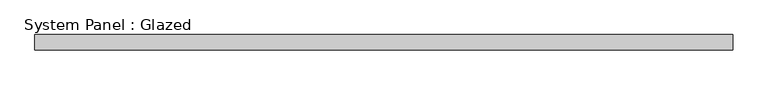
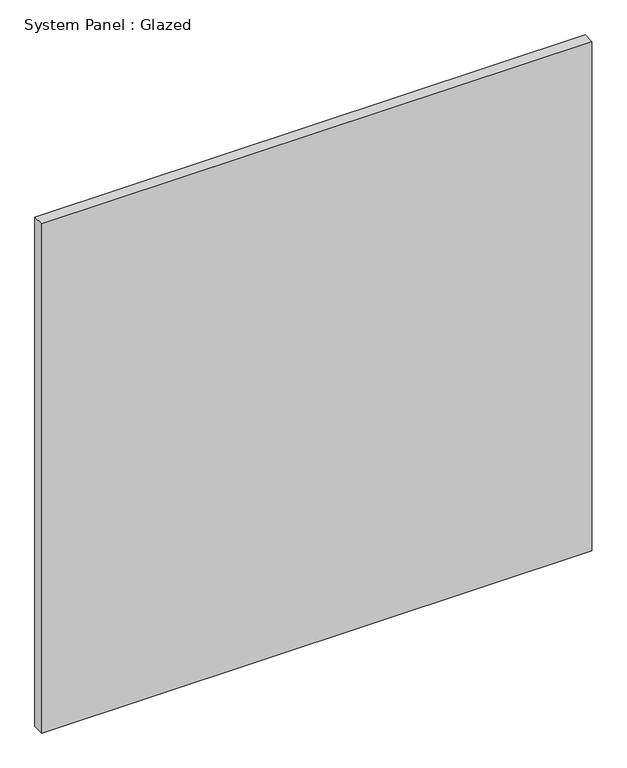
"""IFC4 building model written with IfcOpenShell, lengths in millimetres: plate geometry, System Panel : Glazed."""

from ifc_helpers import new_model, si_unit, origin, origin_with_axes, place, context, project, spatial, polyline, outline, extrude, source, transform, mapped, element, save


def system_panel_glazed_0c6ae723(model_context):
    return source(origin(), model_context, "Body", "SweptSolid", [
        extrude(outline(polyline([(574.9234393, 24.5), (-574.9234393, 24.5), (-574.9234393, 49.5), (574.9234393, 49.5), (574.9234393, 24.5)])), origin_with_axes(), (0.0, 0.0, 1.0), 1125.0),
    ])


if __name__ == "__main__":
    model = new_model("IFC4")
    model_context = context("Model", 3, world=origin())
    ifc_project = project(units=[si_unit("LENGTHUNIT", "METRE", prefix="MILLI")], contexts=[model_context])
    site = spatial("IfcSite", under=ifc_project)
    building = spatial("IfcBuilding", under=site)
    placement = place(None, origin())
    system_panel_glazed_shape = system_panel_glazed_0c6ae723(model_context)
    element("IfcPlate", 1, ObjectType="System Panel : Glazed", at=placement, inside=building, context=model_context, shape_type="MappedRepresentation", body=[
        mapped(system_panel_glazed_shape, transform((0.0, 0.0, 0.0), x_axis=(1.0, 0.0, 0.0), y_axis=(0.0, 1.0, 0.0), z_axis=(0.0, 0.0, 1.0))),
    ])
    save(model, "model.ifc")
